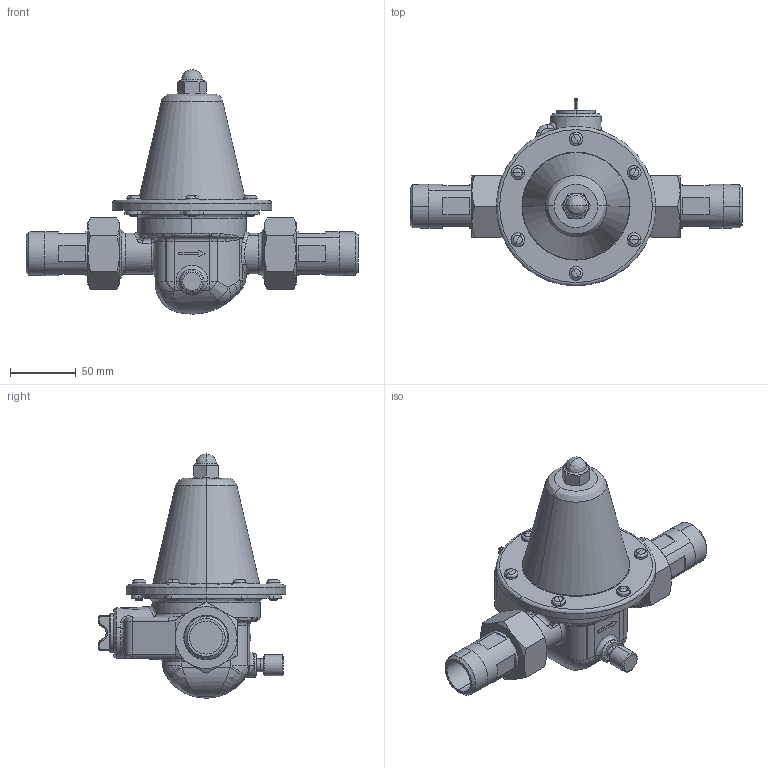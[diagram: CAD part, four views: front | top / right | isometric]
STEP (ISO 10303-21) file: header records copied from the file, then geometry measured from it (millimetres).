
FILE_DESCRIPTION( (''), '2;1');
FILE_NAME ('PC1027.14056.GD-25GJ_5399.stp','2025-08-04T18:15:07',(''),(''),'spGate 20.6.3 (****-****-****-****)','','');
FILE_SCHEMA (('AUTOMOTIVE_DESIGN'));
Length unit declared in the file: millimetre
Products named in the file (7): Assembly; GD-25GJ 弁箱; GD-25GJ ばねカバー; GD-25GJ ガスケット; GD-25GJ ユニオンニップル; GD-25GJ ユニオンナット; GD-25GJ なべ小ねじ
Assembly tree (14 placements, depth 2):
  Assembly
    GD-25GJ 弁箱
    GD-25GJ ばねカバー
    GD-25GJ ガスケット  x2
    GD-25GJ ユニオンニップル  x2
    GD-25GJ ユニオンナット  x2
    GD-25GJ なべ小ねじ  x6
Bounding box: 252 x 142.5 x 185.5 mm (x, y, z)
Volume: 851157.9 mm3; surface area: 138469 mm2
Topology: 14 solids, 14 shells, 536 faces, 1236 edges, 713 vertices
Faces by surface type: bspline 271, cylinder 148, plane 104, sphere 13
Entity records: 23694 total; most frequent: CARTESIAN_POINT 7696, ORIENTED_EDGE 1858, DIRECTION 1571, COLOUR_RGB 1337, PRESENTATION_STYLE_ASSIGNMENT 1337, STYLED_ITEM 1337, EDGE_CURVE 929, DRAUGHTING_PRE_DEFINED_CURVE_FONT 929
